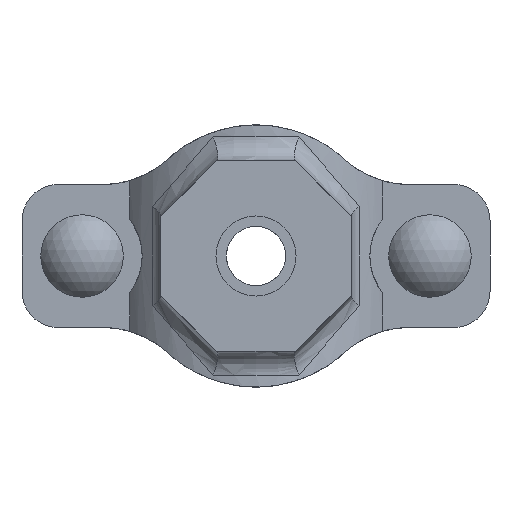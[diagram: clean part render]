
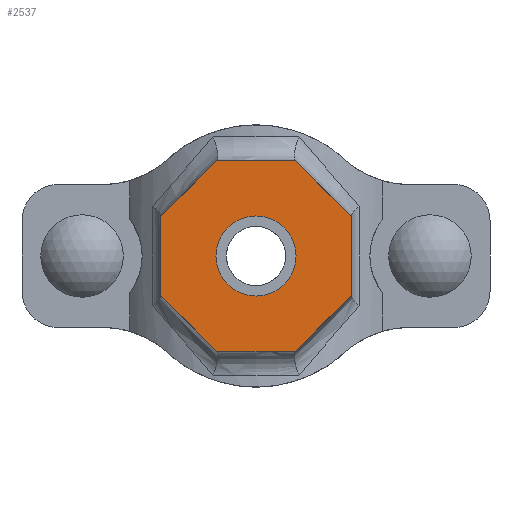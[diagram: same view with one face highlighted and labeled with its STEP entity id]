
A CAD part, front view. The second image highlights one B-rep face of the part: STEP entity #2537.
In plain terms, the highlighted planar face has unit normal (0, -1, 0) as drawn and (0, 1, 0) by its records, which use the part's own axes.
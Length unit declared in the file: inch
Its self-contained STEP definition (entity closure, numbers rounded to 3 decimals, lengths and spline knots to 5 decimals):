
#186=FACE_BOUND('',#457,.T.);
#305=FACE_OUTER_BOUND('',#456,.T.);
#456=EDGE_LOOP('',(#2126,#2127,#2128,#2129,#2130,#2131,#2132,#2133));
#457=EDGE_LOOP('',(#2134));
#594=LINE('',#4577,#780);
#597=LINE('',#4582,#783);
#599=LINE('',#4586,#785);
#601=LINE('',#4590,#787);
#637=LINE('',#4947,#823);
#639=LINE('',#4951,#825);
#641=LINE('',#4955,#827);
#643=LINE('',#4958,#829);
#780=VECTOR('',#3278,0.3937);
#783=VECTOR('',#3283,0.3937);
#785=VECTOR('',#3287,0.3937);
#787=VECTOR('',#3291,0.3937);
#823=VECTOR('',#3415,0.3937);
#825=VECTOR('',#3419,0.3937);
#827=VECTOR('',#3423,0.3937);
#829=VECTOR('',#3427,0.3937);
#915=CIRCLE('',#2798,0.42);
#1097=VERTEX_POINT('',#4574);
#1098=VERTEX_POINT('',#4576);
#1099=VERTEX_POINT('',#4580);
#1100=VERTEX_POINT('',#4584);
#1101=VERTEX_POINT('',#4588);
#1132=VERTEX_POINT('',#4796);
#1156=VERTEX_POINT('',#4946);
#1157=VERTEX_POINT('',#4950);
#1158=VERTEX_POINT('',#4954);
#1408=EDGE_CURVE('',#1098,#1097,#594,.T.);
#1411=EDGE_CURVE('',#1097,#1099,#597,.T.);
#1413=EDGE_CURVE('',#1099,#1100,#599,.T.);
#1415=EDGE_CURVE('',#1100,#1101,#601,.T.);
#1457=EDGE_CURVE('',#1132,#1132,#915,.T.);
#1489=EDGE_CURVE('',#1156,#1098,#637,.T.);
#1491=EDGE_CURVE('',#1157,#1156,#639,.T.);
#1493=EDGE_CURVE('',#1158,#1157,#641,.T.);
#1495=EDGE_CURVE('',#1101,#1158,#643,.T.);
#2126=ORIENTED_EDGE('',*,*,#1495,.T.);
#2127=ORIENTED_EDGE('',*,*,#1493,.T.);
#2128=ORIENTED_EDGE('',*,*,#1491,.T.);
#2129=ORIENTED_EDGE('',*,*,#1489,.T.);
#2130=ORIENTED_EDGE('',*,*,#1408,.T.);
#2131=ORIENTED_EDGE('',*,*,#1411,.T.);
#2132=ORIENTED_EDGE('',*,*,#1413,.T.);
#2133=ORIENTED_EDGE('',*,*,#1415,.T.);
#2134=ORIENTED_EDGE('',*,*,#1457,.T.);
#2278=PLANE('',#2821);
#2537=ADVANCED_FACE('',(#305,#186),#2278,.T.);
#2798=AXIS2_PLACEMENT_3D('',#4797,#3361,#3362);
#2821=AXIS2_PLACEMENT_3D('',#4959,#3428,#3429);
#3278=DIRECTION('',(0.,0.,1.));
#3283=DIRECTION('',(0.707,0.,0.707));
#3287=DIRECTION('',(1.,0.,0.));
#3291=DIRECTION('',(0.707,0.,-0.707));
#3361=DIRECTION('center_axis',(0.,-1.,0.));
#3362=DIRECTION('ref_axis',(-1.,0.,0.));
#3415=DIRECTION('',(-0.707,0.,0.707));
#3419=DIRECTION('',(-1.,0.,0.));
#3423=DIRECTION('',(-0.707,0.,-0.707));
#3427=DIRECTION('',(0.,0.,-1.));
#3428=DIRECTION('center_axis',(0.,1.,0.));
#3429=DIRECTION('ref_axis',(0.,0.,1.));
#4574=CARTESIAN_POINT('',(-1.,2.53,0.41421));
#4576=CARTESIAN_POINT('',(-1.,2.53,-0.41421));
#4577=CARTESIAN_POINT('',(-1.,2.53,0.41421));
#4580=CARTESIAN_POINT('',(-0.41421,2.53,1.));
#4582=CARTESIAN_POINT('',(-0.41421,2.53,1.));
#4584=CARTESIAN_POINT('',(0.41421,2.53,1.));
#4586=CARTESIAN_POINT('',(0.41421,2.53,1.));
#4588=CARTESIAN_POINT('',(1.,2.53,0.41421));
#4590=CARTESIAN_POINT('',(1.,2.53,0.41421));
#4796=CARTESIAN_POINT('',(0.42,2.53,0.));
#4797=CARTESIAN_POINT('Origin',(0.,2.53,0.));
#4946=CARTESIAN_POINT('',(-0.41421,2.53,-1.));
#4947=CARTESIAN_POINT('',(-1.,2.53,-0.41421));
#4950=CARTESIAN_POINT('',(0.41421,2.53,-1.));
#4951=CARTESIAN_POINT('',(-0.41421,2.53,-1.));
#4954=CARTESIAN_POINT('',(1.,2.53,-0.41421));
#4955=CARTESIAN_POINT('',(0.41421,2.53,-1.));
#4958=CARTESIAN_POINT('',(1.,2.53,-0.41421));
#4959=CARTESIAN_POINT('Origin',(0.,2.53,0.));
